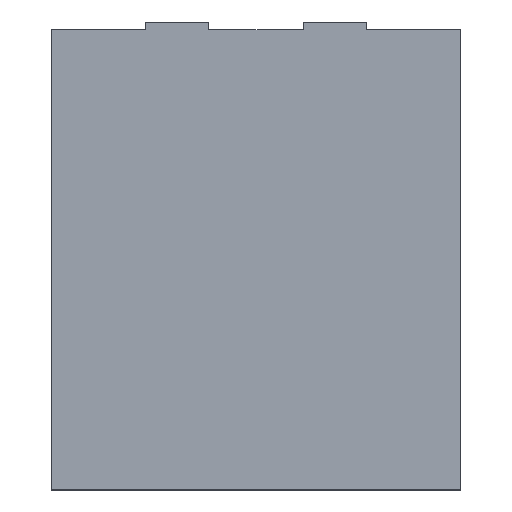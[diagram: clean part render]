
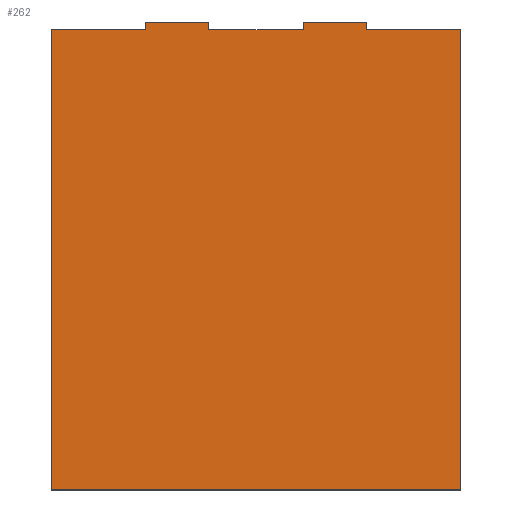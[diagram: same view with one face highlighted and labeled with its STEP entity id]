
A CAD part, top view. The second image highlights one B-rep face of the part: STEP entity #262.
In plain terms, the highlighted planar face has unit normal (0, 0, 1).
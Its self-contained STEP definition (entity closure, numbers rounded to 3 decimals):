
#8 = VECTOR ( 'NONE', #232, 1000. ) ;
#15 = EDGE_CURVE ( 'NONE', #306, #61, #103, .T. ) ;
#17 = CARTESIAN_POINT ( 'NONE',  ( -237.719, 100.255, 10. ) ) ;
#22 = ORIENTED_EDGE ( 'NONE', *, *, #234, .T. ) ;
#23 = VECTOR ( 'NONE', #167, 1000. ) ;
#27 = DIRECTION ( 'NONE',  ( 1., 0., 0. ) ) ;
#37 = VECTOR ( 'NONE', #321, 1000. ) ;
#43 = EDGE_CURVE ( 'NONE', #398, #349, #142, .T. ) ;
#47 = DIRECTION ( 'NONE',  ( 0., 0., 1. ) ) ;
#54 = CARTESIAN_POINT ( 'NONE',  ( -137.719, 88.255, 10. ) ) ;
#61 = VERTEX_POINT ( 'NONE', #99 ) ;
#63 = ORIENTED_EDGE ( 'NONE', *, *, #342, .T. ) ;
#65 = VERTEX_POINT ( 'NONE', #211 ) ;
#75 = DIRECTION ( 'NONE',  ( 1., 0., 0. ) ) ;
#77 = PLANE ( 'NONE',  #410 ) ;
#79 = LINE ( 'NONE', #81, #8 ) ;
#80 = VECTOR ( 'NONE', #228, 1000. ) ;
#81 = CARTESIAN_POINT ( 'NONE',  ( 262.281, 88.255, 10. ) ) ;
#89 = VERTEX_POINT ( 'NONE', #213 ) ;
#91 = CARTESIAN_POINT ( 'NONE',  ( 262.281, -641.745, 10. ) ) ;
#92 = LINE ( 'NONE', #422, #220 ) ;
#93 = EDGE_CURVE ( 'NONE', #252, #466, #464, .T. ) ;
#94 = ORIENTED_EDGE ( 'NONE', *, *, #190, .T. ) ;
#96 = CARTESIAN_POINT ( 'NONE',  ( -387.719, 88.255, 10. ) ) ;
#97 = DIRECTION ( 'NONE',  ( 0., -1., 0. ) ) ;
#99 = CARTESIAN_POINT ( 'NONE',  ( 112.281, 100.255, 10. ) ) ;
#100 = ORIENTED_EDGE ( 'NONE', *, *, #43, .T. ) ;
#103 = LINE ( 'NONE', #461, #121 ) ;
#104 = VERTEX_POINT ( 'NONE', #419 ) ;
#111 = EDGE_CURVE ( 'NONE', #127, #252, #92, .T. ) ;
#112 = VECTOR ( 'NONE', #27, 1000. ) ;
#120 = CARTESIAN_POINT ( 'NONE',  ( 12.281, 100.255, 10. ) ) ;
#121 = VECTOR ( 'NONE', #459, 1000. ) ;
#123 = CARTESIAN_POINT ( 'NONE',  ( 0., 0., 10. ) ) ;
#127 = VERTEX_POINT ( 'NONE', #348 ) ;
#142 = LINE ( 'NONE', #242, #37 ) ;
#167 = DIRECTION ( 'NONE',  ( 0., -1., 0. ) ) ;
#180 = LINE ( 'NONE', #320, #395 ) ;
#190 = EDGE_CURVE ( 'NONE', #326, #127, #421, .T. ) ;
#191 = FACE_OUTER_BOUND ( 'NONE', #308, .T. ) ;
#192 = LINE ( 'NONE', #256, #251 ) ;
#193 = DIRECTION ( 'NONE',  ( -1., 0., 0. ) ) ;
#196 = CARTESIAN_POINT ( 'NONE',  ( 112.281, 88.255, 10. ) ) ;
#203 = CARTESIAN_POINT ( 'NONE',  ( -387.719, -641.745, 10. ) ) ;
#206 = ORIENTED_EDGE ( 'NONE', *, *, #397, .T. ) ;
#211 = CARTESIAN_POINT ( 'NONE',  ( 262.281, 88.255, 10. ) ) ;
#213 = CARTESIAN_POINT ( 'NONE',  ( 12.281, 88.255, 10. ) ) ;
#220 = VECTOR ( 'NONE', #97, 1000. ) ;
#228 = DIRECTION ( 'NONE',  ( -1., 0., 0. ) ) ;
#231 = VECTOR ( 'NONE', #258, 1000. ) ;
#232 = DIRECTION ( 'NONE',  ( 0., 1., 0. ) ) ;
#234 = EDGE_CURVE ( 'NONE', #349, #393, #180, .T. ) ;
#242 = CARTESIAN_POINT ( 'NONE',  ( -137.719, 100.255, 10. ) ) ;
#249 = ORIENTED_EDGE ( 'NONE', *, *, #292, .T. ) ;
#251 = VECTOR ( 'NONE', #335, 1000. ) ;
#252 = VERTEX_POINT ( 'NONE', #300 ) ;
#256 = CARTESIAN_POINT ( 'NONE',  ( -137.719, 88.255, 10. ) ) ;
#258 = DIRECTION ( 'NONE',  ( 0., -1., 0. ) ) ;
#262 = ADVANCED_FACE ( 'NONE', ( #191 ), #77, .T. ) ;
#267 = VECTOR ( 'NONE', #338, 1000. ) ;
#268 = CARTESIAN_POINT ( 'NONE',  ( 12.281, 100.255, 10. ) ) ;
#271 = EDGE_CURVE ( 'NONE', #466, #65, #79, .T. ) ;
#286 = EDGE_CURVE ( 'NONE', #65, #306, #333, .T. ) ;
#290 = ORIENTED_EDGE ( 'NONE', *, *, #93, .T. ) ;
#291 = VECTOR ( 'NONE', #346, 1000. ) ;
#292 = EDGE_CURVE ( 'NONE', #104, #89, #367, .T. ) ;
#300 = CARTESIAN_POINT ( 'NONE',  ( -387.719, -641.745, 10. ) ) ;
#306 = VERTEX_POINT ( 'NONE', #336 ) ;
#308 = EDGE_LOOP ( 'NONE', ( #316, #433, #425, #458, #249, #63, #100, #22, #206, #94, #341, #290 ) ) ;
#316 = ORIENTED_EDGE ( 'NONE', *, *, #271, .T. ) ;
#320 = CARTESIAN_POINT ( 'NONE',  ( -237.719, 100.255, 10. ) ) ;
#321 = DIRECTION ( 'NONE',  ( 0., 1., 0. ) ) ;
#326 = VERTEX_POINT ( 'NONE', #408 ) ;
#330 = CARTESIAN_POINT ( 'NONE',  ( -137.719, 100.255, 10. ) ) ;
#333 = LINE ( 'NONE', #196, #80 ) ;
#335 = DIRECTION ( 'NONE',  ( -1., 0., 0. ) ) ;
#336 = CARTESIAN_POINT ( 'NONE',  ( 112.281, 88.255, 10. ) ) ;
#338 = DIRECTION ( 'NONE',  ( -1., 0., 0. ) ) ;
#341 = ORIENTED_EDGE ( 'NONE', *, *, #111, .T. ) ;
#342 = EDGE_CURVE ( 'NONE', #89, #398, #192, .T. ) ;
#346 = DIRECTION ( 'NONE',  ( -1., 0., 0. ) ) ;
#348 = CARTESIAN_POINT ( 'NONE',  ( -387.719, 88.255, 10. ) ) ;
#349 = VERTEX_POINT ( 'NONE', #330 ) ;
#367 = LINE ( 'NONE', #120, #231 ) ;
#381 = LINE ( 'NONE', #268, #267 ) ;
#393 = VERTEX_POINT ( 'NONE', #407 ) ;
#395 = VECTOR ( 'NONE', #193, 1000. ) ;
#397 = EDGE_CURVE ( 'NONE', #393, #326, #444, .T. ) ;
#398 = VERTEX_POINT ( 'NONE', #54 ) ;
#407 = CARTESIAN_POINT ( 'NONE',  ( -237.719, 100.255, 10. ) ) ;
#408 = CARTESIAN_POINT ( 'NONE',  ( -237.719, 88.255, 10. ) ) ;
#410 = AXIS2_PLACEMENT_3D ( 'NONE', #123, #47, #75 ) ;
#415 = EDGE_CURVE ( 'NONE', #61, #104, #381, .T. ) ;
#419 = CARTESIAN_POINT ( 'NONE',  ( 12.281, 100.255, 10. ) ) ;
#421 = LINE ( 'NONE', #96, #291 ) ;
#422 = CARTESIAN_POINT ( 'NONE',  ( -387.719, 88.255, 10. ) ) ;
#425 = ORIENTED_EDGE ( 'NONE', *, *, #15, .T. ) ;
#433 = ORIENTED_EDGE ( 'NONE', *, *, #286, .T. ) ;
#444 = LINE ( 'NONE', #17, #23 ) ;
#458 = ORIENTED_EDGE ( 'NONE', *, *, #415, .T. ) ;
#459 = DIRECTION ( 'NONE',  ( 0., 1., 0. ) ) ;
#461 = CARTESIAN_POINT ( 'NONE',  ( 112.281, 100.255, 10. ) ) ;
#464 = LINE ( 'NONE', #203, #112 ) ;
#466 = VERTEX_POINT ( 'NONE', #91 ) ;
